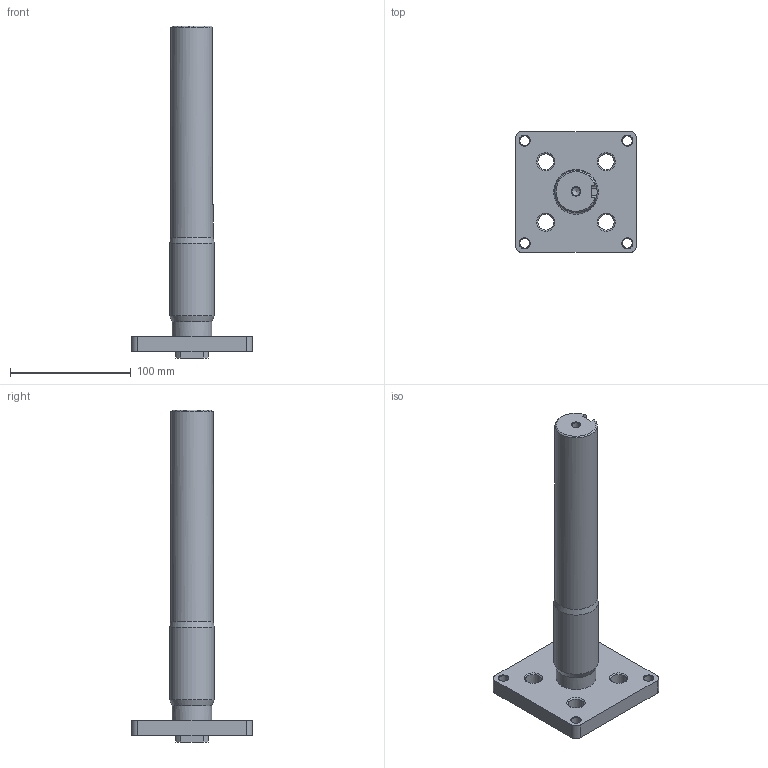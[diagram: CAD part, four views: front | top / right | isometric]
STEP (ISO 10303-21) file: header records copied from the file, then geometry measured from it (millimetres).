
FILE_DESCRIPTION(/* description */ (''),/* implementation_level */ '2;1');
FILE_NAME(/* name */ 'TRAYLOADER.40.3.stp',/* time_stamp */ '2025-05-12T16:04:17+02:00',/* author */ (''),/* organization */ (''),/* preprocessor_version */ 'ST-DEVELOPER v19.4',/* originating_system */ 'SIEMENS PLM Software NX2306.5001',/* authorisation */ '');
FILE_SCHEMA (('AP203_CONFIGURATION_CONTROLLED_3D_DESIGN_OF_MECHANICAL_PARTS_AND_ASSEMBLIES_MIM_LF { 1 0 10303 403 2 1 2}'));
Length unit declared in the file: millimetre
Products named in the file (1): TRAYLOADER.40.3_objects
Bounding box: 100 x 100 x 275 mm (x, y, z)
Volume: 368649.6 mm3; surface area: 60524.9 mm2
Topology: 2 solids, 2 shells, 67 faces, 177 edges, 114 vertices
Faces by surface type: plane 24, cylinder 22, cone 21
Full cylindrical faces by diameter (mm): 6.8 x1, 8 x4, 13 x4, 33 x1, 35 x1, 37 x1
Entity records: 1965 total; most frequent: CARTESIAN_POINT 338, DIRECTION 332, ORIENTED_EDGE 264, AXIS2_PLACEMENT_3D 136, EDGE_CURVE 132, EDGE_LOOP 117, VERTEX_POINT 102, FACE_BOUND 86
